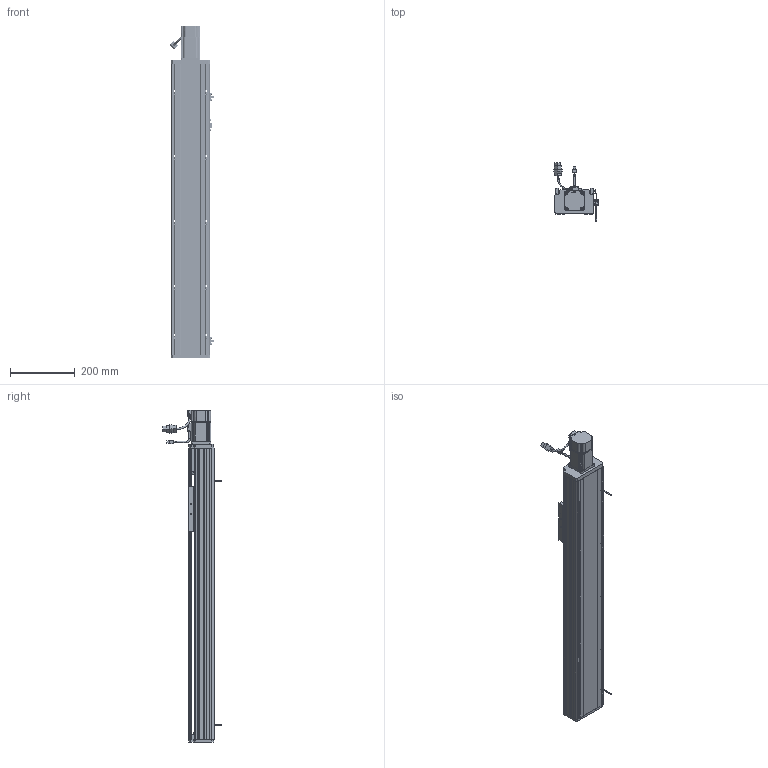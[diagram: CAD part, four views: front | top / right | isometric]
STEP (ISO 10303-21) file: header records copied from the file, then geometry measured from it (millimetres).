
FILE_DESCRIPTION (( 'STEP AP214' ), '1' );
FILE_NAME ('CTH120-650.STEP', '2019-11-20T02:42:18', ( '微软用户' ), ( '微软中国' ), 'SwSTEP 2.0', 'SolidWorks 2017', '' );
FILE_SCHEMA (( 'AUTOMOTIVE_DESIGN' ));
Length unit declared in the file: millimetre
Products named in the file (33): 120耀郪-傷啣; M5-L20囀鞠褒蹟佪; 120模组-盖子_默认<按加工>; M5-L12囀鞠褒蹟佪; 120耀郪-侜督儂啣; 怢湛200W侜督萇儂ECMA-CX0602ES; SFH1605; 盓傅釱蚾饜极; 136蹟簽蟀諉輸; 6000; 120模组-移动座_默认<按加工>; 120耀郪-盓傅釱; SFH1605-450; M4-L16囀鞠褒蹟佪; 120模组-底座_默认<按加工>; EGH15-CA; EGH15_RAIL; CTH120-650; 珨极宒粣創釱; 遣喳蝶15x12x8; M4-L10囀鞠褒蹟佪; M4-L22囀鞠褒蹟佪; 7001-DB; 7001; 噩砃EGH15-CA; 粣創揤啣; M3-L8囀鞠褒蹟佪; COL12B-粣遠; CT12耀郪-覜茼んえ; 坶踡蹟譫; EE-SX672-BR; 120耀郪-粣創釱; M4-L6半圆头内六角螺丝
Assembly tree (90 placements, depth 4):
  CTH120-650
    120模组-底座_默认<按加工>
    SFH1605-450
    120模组-移动座_默认<按加工>
    136蹟簽蟀諉輸
    SFH1605
    120耀郪-侜督儂啣
    120模组-盖子_默认<按加工>
    120耀郪-傷啣
    珨极宒粣創釱
      120耀郪-粣創釱
      坶踡蹟譫
      COL12B-粣遠  x2
      粣創揤啣
      7001-DB
        7001  x2
      M4-L22囀鞠褒蹟佪  x6
      M4-L10囀鞠褒蹟佪  x4
      遣喳蝶15x12x8
    EGH15_RAIL  x2
    EGH15-CA  x2
    M4-L16囀鞠褒蹟佪  x8
    M4-L10囀鞠褒蹟佪  x22
    盓傅釱蚾饜极
      120耀郪-盓傅釱
      6000
      遣喳蝶15x12x8  x2
      M4-L22囀鞠褒蹟佪  x2
    怢湛200W侜督萇儂ECMA-CX0602ES
    M5-L12囀鞠褒蹟佪  x3
    M5-L20囀鞠褒蹟佪  x4
    M4-L6半圆头内六角螺丝  x4
    EE-SX672-BR  x2
    CT12耀郪-覜茼んえ
    M3-L8囀鞠褒蹟佪  x4
    噩砃EGH15-CA  x2
Bounding box: 137.94 x 179.67 x 1022 mm (x, y, z)
Volume: 3960208.6 mm3; surface area: 1207971.3 mm2
Topology: 87 solids, 96 shells, 5268 faces, 13895 edges, 8889 vertices
Faces by surface type: plane 2851, cylinder 1544, cone 539, bspline 241, torus 81, sphere 12
Entity records: 111830 total; most frequent: CARTESIAN_POINT 32889, ORIENTED_EDGE 16612, DIRECTION 15037, EDGE_CURVE 8306, VERTEX_POINT 5451, AXIS2_PLACEMENT_3D 5120, VECTOR 4797, LINE 4797
